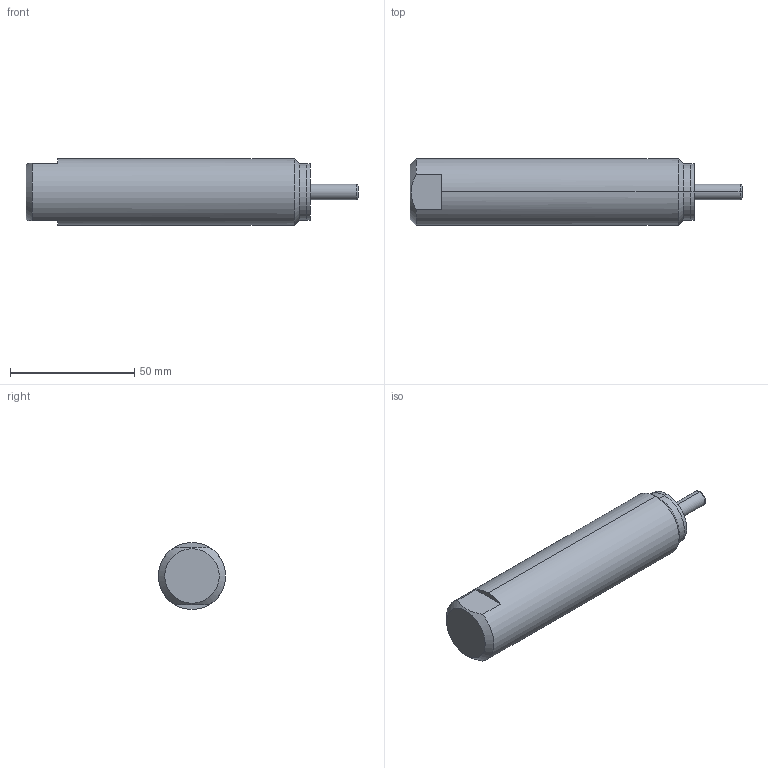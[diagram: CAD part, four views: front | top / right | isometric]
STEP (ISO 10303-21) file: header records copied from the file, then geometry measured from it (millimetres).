
FILE_DESCRIPTION (( 'STEP AP214' ), '1' );
FILE_NAME ('ES18062.STEP', '2019-12-05T08:09:23', ( 'user' ), ( 'Microsoft' ), 'SwSTEP 2.0', 'SolidWorks 2016', '' );
FILE_SCHEMA (( 'AUTOMOTIVE_DESIGN' ));
Length unit declared in the file: millimetre
Products named in the file (1): ES18062
Bounding box: 133.8 x 27 x 27 mm (x, y, z)
Volume: 64636 mm3; surface area: 12629.3 mm2
Topology: 4 solids, 4 shells, 30 faces, 58 edges, 36 vertices
Faces by surface type: plane 16, cylinder 8, cone 4, torus 2
Entity records: 859 total; most frequent: CARTESIAN_POINT 165, DIRECTION 144, ORIENTED_EDGE 116, AXIS2_PLACEMENT_3D 59, EDGE_CURVE 58, VERTEX_POINT 36, EDGE_LOOP 30, FACE_OUTER_BOUND 30
